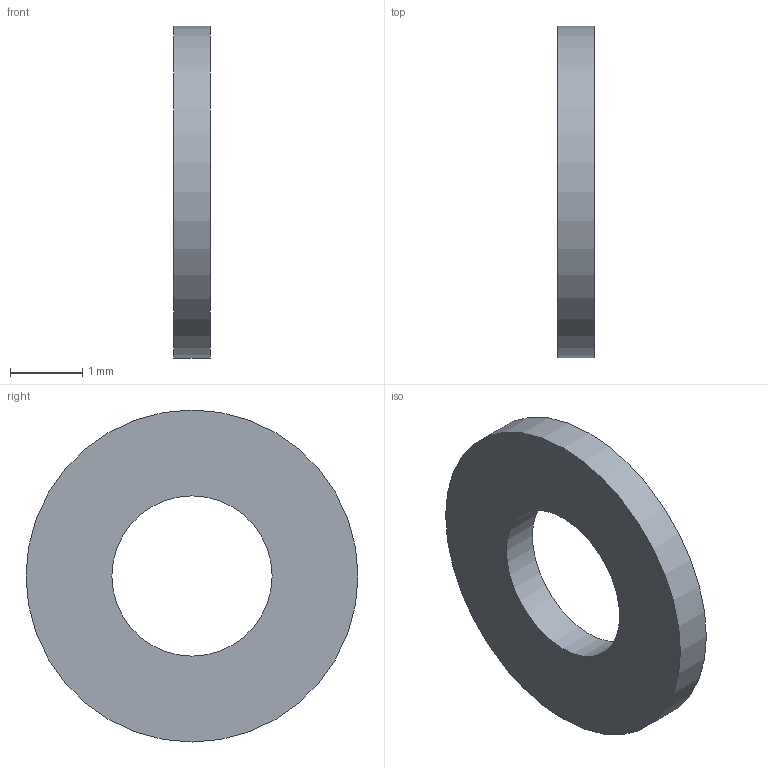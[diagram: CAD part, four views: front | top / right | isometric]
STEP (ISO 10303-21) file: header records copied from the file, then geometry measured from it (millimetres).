
FILE_DESCRIPTION(('Open CASCADE Model'),'2;1');
FILE_NAME('Open CASCADE Shape Model','2026-09-09T10:24:07',('Author'),( 'Open CASCADE'),'Open CASCADE STEP processor 7.8','Open CASCADE 7.8' ,'Unknown');
FILE_SCHEMA(('AUTOMOTIVE_DESIGN { 1 0 10303 214 1 1 1 1 }'));
Length unit declared in the file: millimetre
Products named in the file (1): Open CASCADE STEP translator 7.8 22
Bounding box: 0.51 x 4.6 x 4.6 mm (x, y, z)
Volume: 6.5 mm3; surface area: 36.4 mm2
Topology: 1 solids, 1 shells, 4 faces, 6 edges, 4 vertices
Faces by surface type: cylinder 2, plane 2
Full cylindrical faces by diameter (mm): 2.22 x1, 4.6 x1
Entity records: 186 total; most frequent: DIRECTION 32, CARTESIAN_POINT 27, ORIENTED_EDGE 12, PCURVE 12, DEFINITIONAL_REPRESENTATION 12, LINE 10, VECTOR 10, AXIS2_PLACEMENT_3D 9
